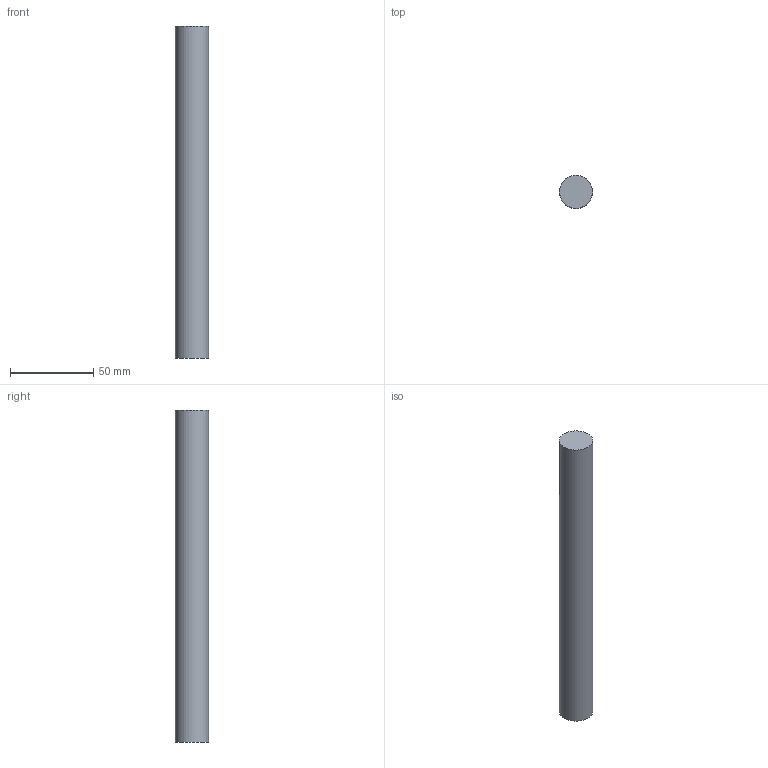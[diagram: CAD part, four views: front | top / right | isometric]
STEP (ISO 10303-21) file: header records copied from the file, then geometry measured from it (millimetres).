
FILE_DESCRIPTION(/* description */ (''),/* implementation_level */ '2;1');
FILE_NAME(/* name */ 'C:\Users\David\Desktop\stepFiles\Profilfuehrung\WF20x200.stp',/* time_stamp */ '2018-06-24T15:49:01+02:00',/* author */ ('David'),/* organization */ (''),/* preprocessor_version */ 'ST-DEVELOPER v17',/* originating_system */ 'Autodesk Inventor 2019',/* authorisation */ '');
FILE_SCHEMA (('AUTOMOTIVE_DESIGN { 1 0 10303 214 3 1 1 }'));
Length unit declared in the file: millimetre
Products named in the file (1): Wellenfuehrung
Bounding box: 20 x 20 x 200 mm (x, y, z)
Volume: 62831.9 mm3; surface area: 13194.7 mm2
Topology: 1 solids, 1 shells, 3 faces, 3 edges, 2 vertices
Faces by surface type: plane 2, cylinder 1
Full cylindrical faces by diameter (mm): 20 x1
Entity records: 98 total; most frequent: DIRECTION 13, CARTESIAN_POINT 9, ORIENTED_EDGE 6, AXIS2_PLACEMENT_3D 6, FACE_OUTER_BOUND 3, EDGE_LOOP 3, EDGE_CURVE 3, ADVANCED_FACE 3
